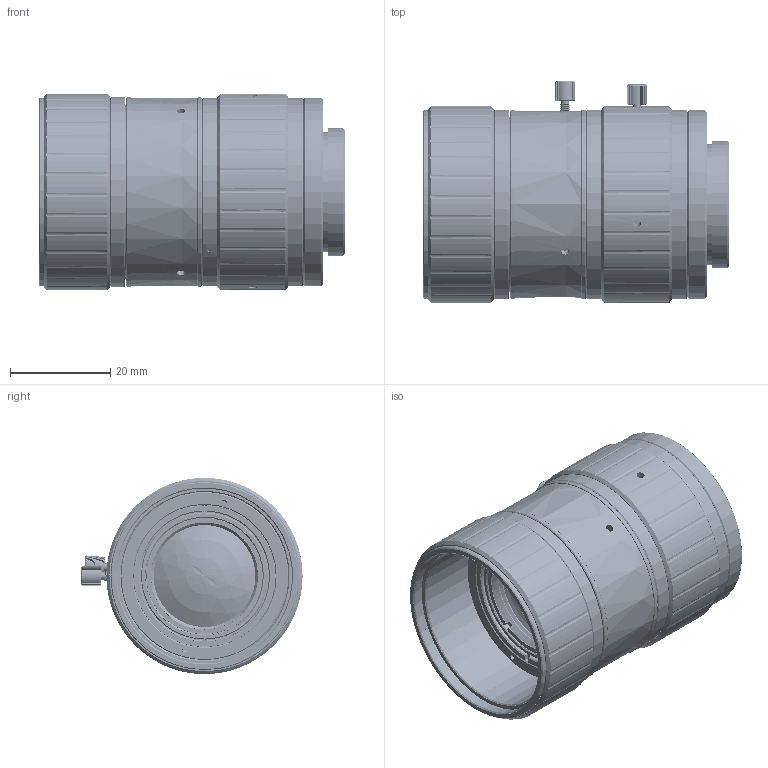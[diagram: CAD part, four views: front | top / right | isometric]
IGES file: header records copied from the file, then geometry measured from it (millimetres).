
Start section: SolidWorks IGES file using analytic representation for surfaces
Global section: file name: 2HF:\产品\产品图\90本公司\MJ9943xx12\MJ994350120\装配\总装\QM994350121总装\QM994350121总装.IGS; native system: SolidWorks 2018; preprocessor: SolidWorks 2018; author: hai; date: 240111.141130; units: millimetre
Bounding box: 61.27 x 44.2 x 39.2 mm (x, y, z)
Surface area: 43689.1 mm2 (no closed solid volume)
Topology: 0 solids, 0 shells, 1656 faces, 20060 edges, 20043 vertices
Faces by surface type: revolution 1028, bspline 628
